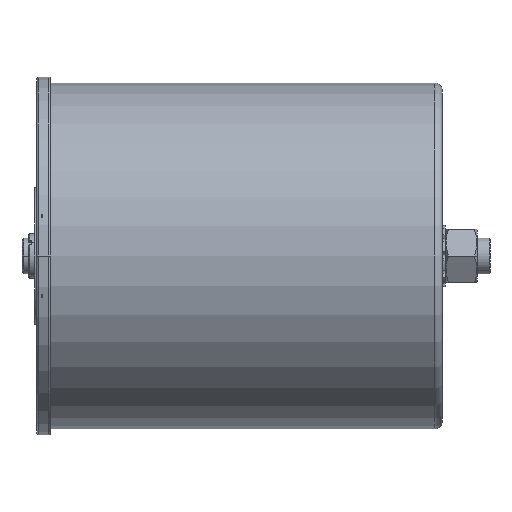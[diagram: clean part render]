
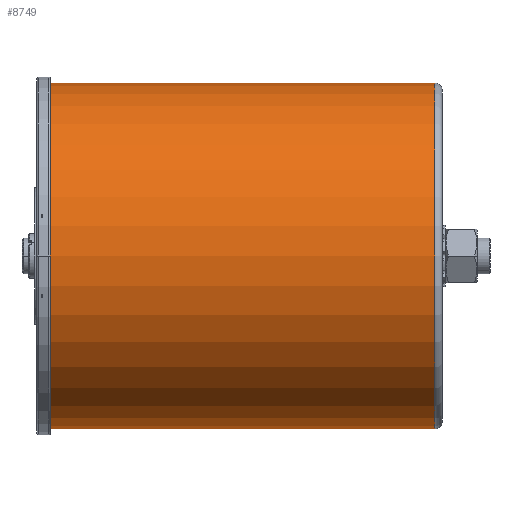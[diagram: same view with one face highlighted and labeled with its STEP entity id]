
A CAD part, left-side view. The second image highlights one B-rep face of the part: STEP entity #8749.
In plain terms, the highlighted cylindrical face has radius 58 mm (diameter 116 mm), a partial arc.
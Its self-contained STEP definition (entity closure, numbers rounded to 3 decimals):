
#281 = EDGE_LOOP ( 'NONE', ( #7782, #974, #3864, #4861 ) ) ;
#767 = LINE ( 'NONE', #11208, #3924 ) ;
#815 = CARTESIAN_POINT ( 'NONE',  ( 0., -131.9, 58. ) ) ;
#974 = ORIENTED_EDGE ( 'NONE', *, *, #5898, .T. ) ;
#2291 = AXIS2_PLACEMENT_3D ( 'NONE', #9327, #6523, #5610 ) ;
#2637 = DIRECTION ( 'NONE',  ( 0., 0., -1. ) ) ;
#2691 = CYLINDRICAL_SURFACE ( 'NONE', #12219, 58. ) ;
#2931 = EDGE_CURVE ( 'NONE', #10480, #7007, #767, .T. ) ;
#3146 = VERTEX_POINT ( 'NONE', #6582 ) ;
#3833 = CARTESIAN_POINT ( 'NONE',  ( 0., -134.4, -58. ) ) ;
#3864 = ORIENTED_EDGE ( 'NONE', *, *, #7649, .T. ) ;
#3888 = DIRECTION ( 'NONE',  ( 0., -1., 0. ) ) ;
#3924 = VECTOR ( 'NONE', #11260, 1000. ) ;
#3960 = CARTESIAN_POINT ( 'NONE',  ( 0., -0.6, 58. ) ) ;
#4442 = CARTESIAN_POINT ( 'NONE',  ( 0., -131.9, 0. ) ) ;
#4694 = CIRCLE ( 'NONE', #2291, 58. ) ;
#4861 = ORIENTED_EDGE ( 'NONE', *, *, #7580, .T. ) ;
#5610 = DIRECTION ( 'NONE',  ( 0., 0., -1. ) ) ;
#5851 = CARTESIAN_POINT ( 'NONE',  ( 0., -131.9, -58. ) ) ;
#5898 = EDGE_CURVE ( 'NONE', #10480, #3146, #4694, .T. ) ;
#6523 = DIRECTION ( 'NONE',  ( 0., -1., 0. ) ) ;
#6582 = CARTESIAN_POINT ( 'NONE',  ( 0., -0.6, -58. ) ) ;
#6658 = DIRECTION ( 'NONE',  ( 0., -1., 0. ) ) ;
#6664 = VERTEX_POINT ( 'NONE', #5851 ) ;
#6884 = FACE_OUTER_BOUND ( 'NONE', #281, .T. ) ;
#6906 = CIRCLE ( 'NONE', #11478, 58. ) ;
#7007 = VERTEX_POINT ( 'NONE', #815 ) ;
#7580 = EDGE_CURVE ( 'NONE', #6664, #7007, #6906, .T. ) ;
#7649 = EDGE_CURVE ( 'NONE', #3146, #6664, #12150, .T. ) ;
#7726 = DIRECTION ( 'NONE',  ( 0., 0., -1. ) ) ;
#7782 = ORIENTED_EDGE ( 'NONE', *, *, #2931, .F. ) ;
#7943 = VECTOR ( 'NONE', #6658, 1000. ) ;
#8329 = DIRECTION ( 'NONE',  ( 0., 1., 0. ) ) ;
#8749 = ADVANCED_FACE ( 'NONE', ( #6884 ), #2691, .T. ) ;
#9327 = CARTESIAN_POINT ( 'NONE',  ( 0., -0.6, 0. ) ) ;
#10480 = VERTEX_POINT ( 'NONE', #3960 ) ;
#11208 = CARTESIAN_POINT ( 'NONE',  ( 0., -134.4, 58. ) ) ;
#11260 = DIRECTION ( 'NONE',  ( 0., -1., 0. ) ) ;
#11478 = AXIS2_PLACEMENT_3D ( 'NONE', #4442, #8329, #2637 ) ;
#12150 = LINE ( 'NONE', #3833, #7943 ) ;
#12219 = AXIS2_PLACEMENT_3D ( 'NONE', #12366, #3888, #7726 ) ;
#12366 = CARTESIAN_POINT ( 'NONE',  ( 0., -134.4, 0. ) ) ;
